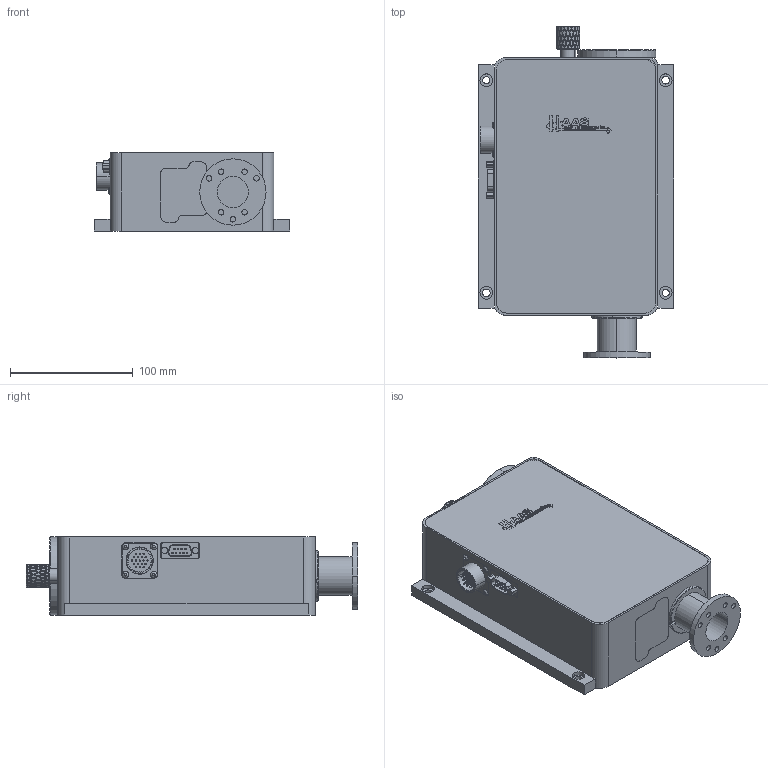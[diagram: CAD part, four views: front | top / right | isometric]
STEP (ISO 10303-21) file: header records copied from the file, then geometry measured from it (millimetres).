
FILE_DESCRIPTION (( 'STEP AP214' ), '1' );
FILE_NAME ('MZA-25-50-E.STEP', '2016-11-08T14:00:17', ( '' ), ( '' ), 'SwSTEP 2.0', 'SolidWorks 2016', '' );
FILE_SCHEMA (( 'AUTOMOTIVE_DESIGN' ));
Length unit declared in the file: inch
Products named in the file (1): MZA-25-50-E
Bounding box: 158.75 x 270.2 x 63.5 mm (x, y, z)
Volume: 1862694.5 mm3; surface area: 130979.7 mm2
Topology: 1 solids, 1 shells, 1482 faces, 3723 edges, 2336 vertices
Faces by surface type: plane 1057, cylinder 338, bspline 46, torus 30, cone 11
Entity records: 44653 total; most frequent: CARTESIAN_POINT 10972, ORIENTED_EDGE 7446, DIRECTION 6423, EDGE_CURVE 3723, VERTEX_POINT 2336, VECTOR 2297, LINE 2297, AXIS2_PLACEMENT_3D 2063
